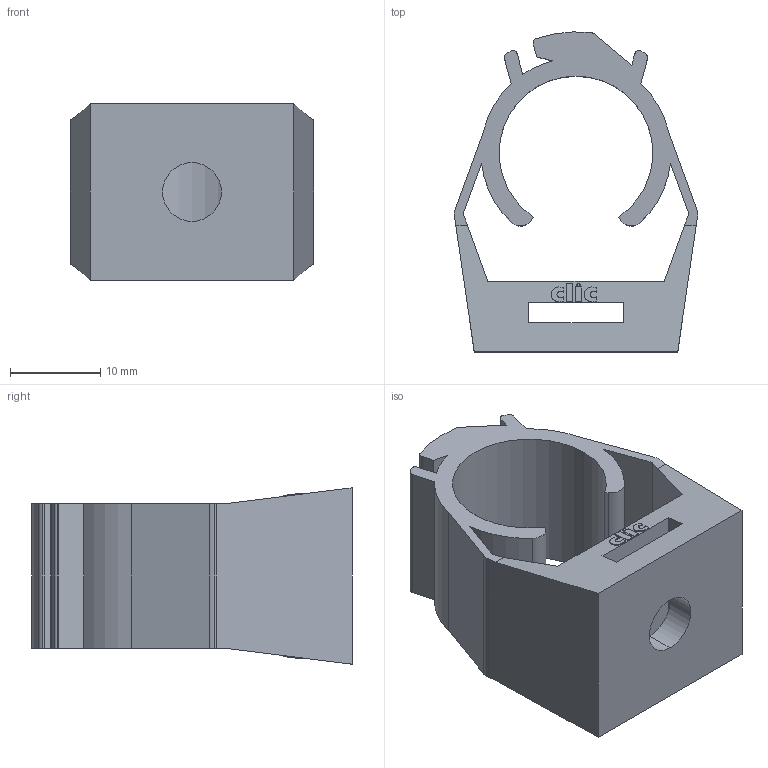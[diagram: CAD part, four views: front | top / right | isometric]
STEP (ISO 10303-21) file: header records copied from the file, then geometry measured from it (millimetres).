
FILE_DESCRIPTION (( 'STEP AP214' ), '1' );
FILE_NAME ('CLIC17.STEP', '2022-08-03T05:19:04', ( '' ), ( '' ), 'SwSTEP 2.0', 'SolidWorks 2021', '' );
FILE_SCHEMA (( 'AUTOMOTIVE_DESIGN' ));
Length unit declared in the file: millimetre
Products named in the file (1): CLIC17
Bounding box: 26.92 x 35.4 x 19.5 mm (x, y, z)
Volume: 5591.9 mm3; surface area: 4971.8 mm2
Topology: 1 solids, 1 shells, 121 faces, 333 edges, 222 vertices
Faces by surface type: plane 65, bspline 28, cylinder 28
Entity records: 3961 total; most frequent: CARTESIAN_POINT 1053, ORIENTED_EDGE 666, DIRECTION 521, EDGE_CURVE 333, VERTEX_POINT 222, VECTOR 213, LINE 213, AXIS2_PLACEMENT_3D 154
